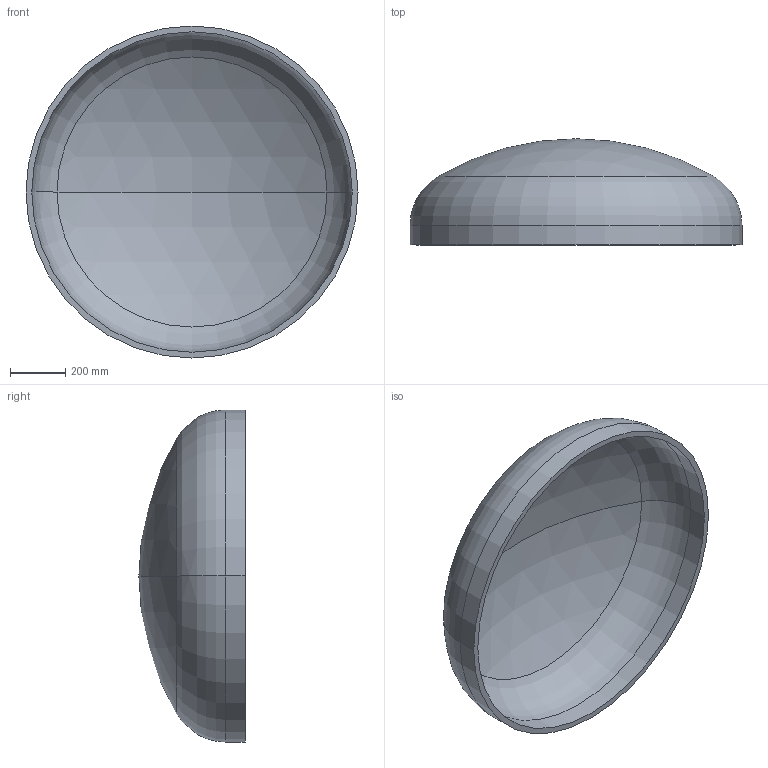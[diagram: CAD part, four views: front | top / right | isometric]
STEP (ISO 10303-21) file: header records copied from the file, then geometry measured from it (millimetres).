
FILE_DESCRIPTION (( 'STEP AP203' ), '1' );
FILE_NAME ('DIN 28013 Korbbogenform_-_Boden DIN 28013 - 1200 x 70 - I - s=21.step', '2016-07-01T09:23:23', ( '' ), ( '' ), 'SwSTEP 2.0', 'SolidWorks 2013', '' );
FILE_SCHEMA (( 'CONFIG_CONTROL_DESIGN' ));
Length unit declared in the file: millimetre
Products named in the file (1): DIN 28013 Korbbogenform_-_Boden DIN 28013 - 1200 x 70 - I - s=21
Bounding box: 1200 x 383.63 x 1200 mm (x, y, z)
Volume: 37595281.1 mm3; surface area: 3659208.1 mm2
Topology: 1 solids, 1 shells, 13 faces, 24 edges, 14 vertices
Faces by surface type: torus 4, cylinder 4, sphere 4, plane 1
Entity records: 407 total; most frequent: DIRECTION 72, CARTESIAN_POINT 52, ORIENTED_EDGE 48, AXIS2_PLACEMENT_3D 34, EDGE_CURVE 24, CIRCLE 20, EDGE_LOOP 14, VERTEX_POINT 14
